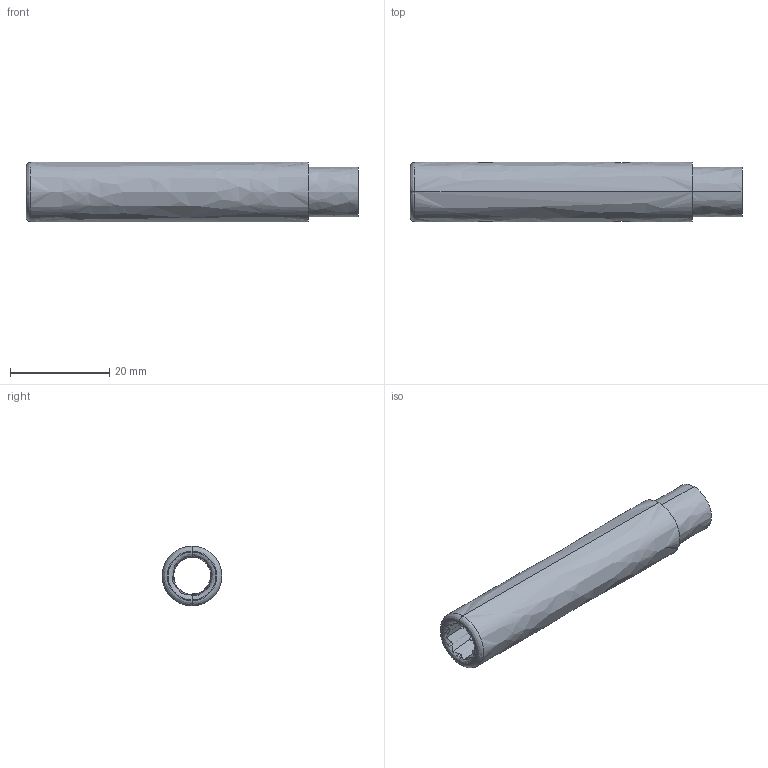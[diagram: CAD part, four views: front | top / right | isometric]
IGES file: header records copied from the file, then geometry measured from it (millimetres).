
Start section:  PTC IGES file: C:\Documents and Settings\audibk\personal\guns\walther\W alther_PPK\iges\lauf02.igs
Global section: file name: C:\Documents and Settings\audibk\personal\guns\walther\Walther_PPK\iges\lauf02.igs; native system: Pro/ENGINEER by Parametric Technology Corporation; preprocessor: 2002180; author: audibk; organization: Unknown; date: 030409.105321; units: millimetre
Bounding box: 67 x 12 x 12 mm (x, y, z)
Volume: 3997.3 mm3; surface area: 4274.4 mm2
Topology: 1 solids, 1 shells, 33 faces, 92 edges, 62 vertices
Faces by surface type: bspline 33
